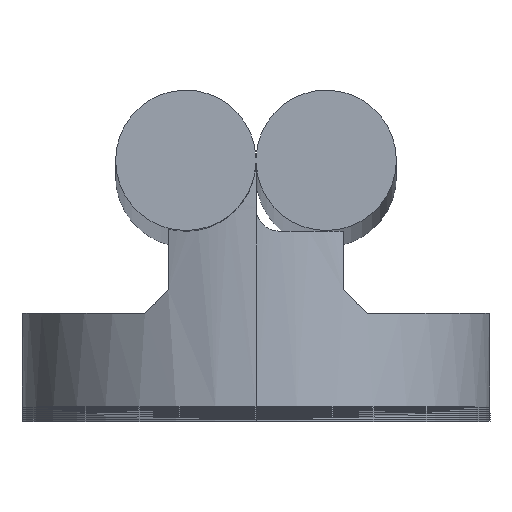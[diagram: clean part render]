
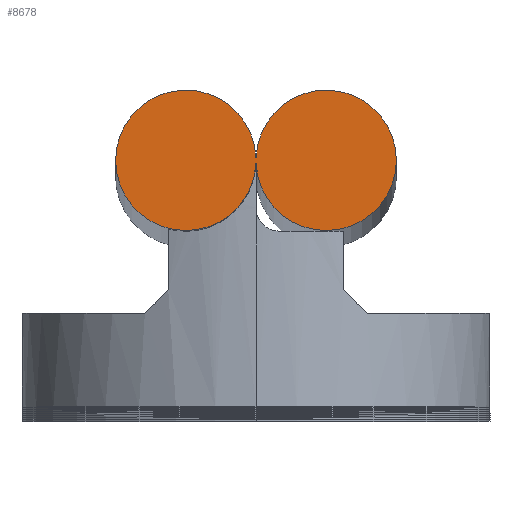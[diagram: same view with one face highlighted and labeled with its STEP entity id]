
A CAD part, top view. The second image highlights one B-rep face of the part: STEP entity #8678.
In plain terms, the highlighted planar face has unit normal (0, 0, 1).
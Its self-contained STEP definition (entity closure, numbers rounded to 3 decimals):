
#7271 = VERTEX_POINT ( 'NONE', #21055 ) ;
#7358 = VERTEX_POINT ( 'NONE', #21212 ) ;
#7360 = EDGE_CURVE ( 'NONE', #7271, #7358, #21211, .T. ) ;
#7784 = ORIENTED_EDGE ( 'NONE', *, *, #8574, .T. ) ;
#8541 = EDGE_CURVE ( 'NONE', #8572, #7271, #23898, .T. ) ;
#8572 = VERTEX_POINT ( 'NONE', #23947 ) ;
#8574 = EDGE_CURVE ( 'NONE', #8575, #8572, #23985, .T. ) ;
#8575 = VERTEX_POINT ( 'NONE', #23980 ) ;
#8628 = VERTEX_POINT ( 'NONE', #24077 ) ;
#8678 = ADVANCED_FACE ( 'NONE', ( #24185 ), #24169, .T. ) ;
#8679 = EDGE_LOOP ( 'NONE', ( #8680, #8681, #8682, #7784, #8739 ) ) ;
#8680 = ORIENTED_EDGE ( 'NONE', *, *, #7360, .T. ) ;
#8681 = ORIENTED_EDGE ( 'NONE', *, *, #8686, .T. ) ;
#8682 = ORIENTED_EDGE ( 'NONE', *, *, #8690, .T. ) ;
#8686 = EDGE_CURVE ( 'NONE', #7358, #8628, #24218, .T. ) ;
#8690 = EDGE_CURVE ( 'NONE', #8628, #8575, #24192, .T. ) ;
#8739 = ORIENTED_EDGE ( 'NONE', *, *, #8541, .T. ) ;
#21055 = CARTESIAN_POINT ( 'NONE',  ( 0.005, 20.75, 0. ) ) ;
#21211 = CIRCLE ( 'NONE', #21277, 6. ) ;
#21212 = CARTESIAN_POINT ( 'NONE',  ( 12., 21., 0. ) ) ;
#21274 = DIRECTION ( 'NONE',  ( 1., 0., 0. ) ) ;
#21275 = DIRECTION ( 'NONE',  ( 0., 0., 1. ) ) ;
#21276 = CARTESIAN_POINT ( 'NONE',  ( 6., 21., 0. ) ) ;
#21277 = AXIS2_PLACEMENT_3D ( 'NONE', #21276, #21275, #21274 ) ;
#23895 = DIRECTION ( 'NONE',  ( 1., 0., 0. ) ) ;
#23896 = VECTOR ( 'NONE', #23895, 1000. ) ;
#23897 = CARTESIAN_POINT ( 'NONE',  ( -0.005, 20.75, 0. ) ) ;
#23898 = LINE ( 'NONE', #23897, #23896 ) ;
#23947 = CARTESIAN_POINT ( 'NONE',  ( -0.005, 20.75, 0. ) ) ;
#23980 = CARTESIAN_POINT ( 'NONE',  ( -0.005, 21.25, 0. ) ) ;
#23981 = DIRECTION ( 'NONE',  ( -1., 0., 0. ) ) ;
#23982 = DIRECTION ( 'NONE',  ( 0., 0., 1. ) ) ;
#23983 = CARTESIAN_POINT ( 'NONE',  ( -6., 21., 0. ) ) ;
#23984 = AXIS2_PLACEMENT_3D ( 'NONE', #23983, #23982, #23981 ) ;
#23985 = CIRCLE ( 'NONE', #23984, 6. ) ;
#24077 = CARTESIAN_POINT ( 'NONE',  ( 0.005, 21.25, 0. ) ) ;
#24165 = DIRECTION ( 'NONE',  ( 1., 0., 0. ) ) ;
#24166 = DIRECTION ( 'NONE',  ( 0., 0., 1. ) ) ;
#24167 = CARTESIAN_POINT ( 'NONE',  ( 6., 21., 0. ) ) ;
#24168 = AXIS2_PLACEMENT_3D ( 'NONE', #24167, #24166, #24165 ) ;
#24169 = PLANE ( 'NONE',  #24168 ) ;
#24185 = FACE_OUTER_BOUND ( 'NONE', #8679, .T. ) ;
#24189 = DIRECTION ( 'NONE',  ( -1., 0., 0. ) ) ;
#24190 = VECTOR ( 'NONE', #24189, 1000. ) ;
#24191 = CARTESIAN_POINT ( 'NONE',  ( -0.005, 21.25, 0. ) ) ;
#24192 = LINE ( 'NONE', #24191, #24190 ) ;
#24214 = DIRECTION ( 'NONE',  ( 1., 0., 0. ) ) ;
#24215 = DIRECTION ( 'NONE',  ( 0., 0., 1. ) ) ;
#24216 = CARTESIAN_POINT ( 'NONE',  ( 6., 21., 0. ) ) ;
#24217 = AXIS2_PLACEMENT_3D ( 'NONE', #24216, #24215, #24214 ) ;
#24218 = CIRCLE ( 'NONE', #24217, 6. ) ;
